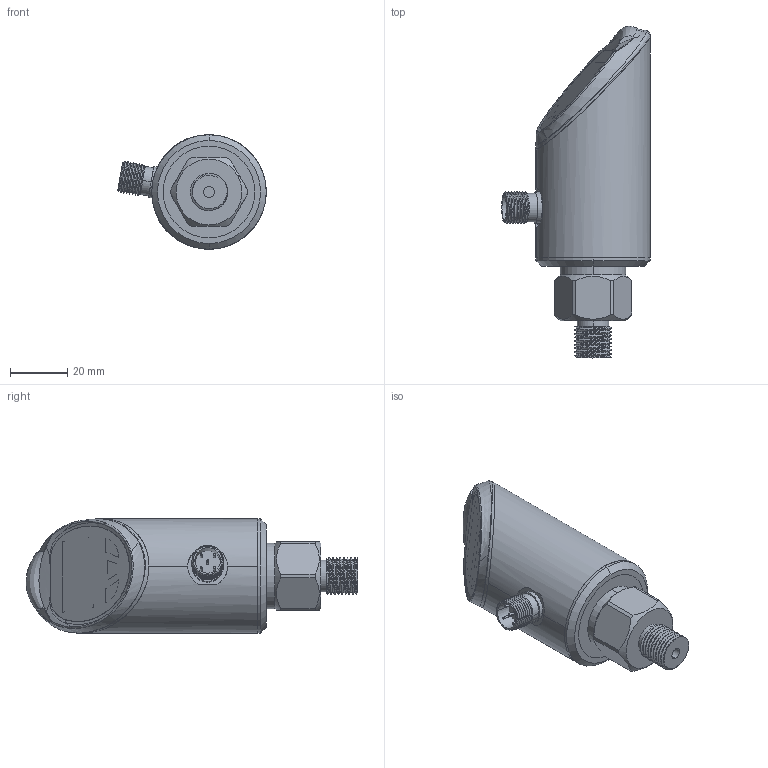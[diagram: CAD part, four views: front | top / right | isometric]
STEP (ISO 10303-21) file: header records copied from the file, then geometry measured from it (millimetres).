
FILE_DESCRIPTION (( 'STEP AP203' ), '1' );
FILE_NAME ('对外二分外牙PXW装配体.STEP', '2025-12-25T10:55:02', ( '' ), ( '' ), 'SwSTEP 2.0', 'SolidWorks 2022', '' );
FILE_SCHEMA (( 'CONFIG_CONTROL_DESIGN' ));
Length unit declared in the file: millimetre
Products named in the file (4): 对外二分外牙PXW装配体; 对外二分外牙PXW压力基座; PXW爾諉遠; 訇醱桶芛
Assembly tree (3 placements, depth 2):
  对外二分外牙PXW装配体
    对外二分外牙PXW压力基座
    訇醱桶芛
    PXW爾諉遠
Bounding box: 51.89 x 115.98 x 40 mm (x, y, z)
Volume: 83748.5 mm3; surface area: 32588.3 mm2
Topology: 6 solids, 7 shells, 232 faces, 556 edges, 365 vertices
Faces by surface type: cylinder 104, plane 70, bspline 48, cone 10
Entity records: 18979 total; most frequent: CARTESIAN_POINT 13720, ORIENTED_EDGE 1110, DIRECTION 829, EDGE_CURVE 555, VERTEX_POINT 365, AXIS2_PLACEMENT_3D 324, EDGE_LOOP 266, ADVANCED_FACE 232
